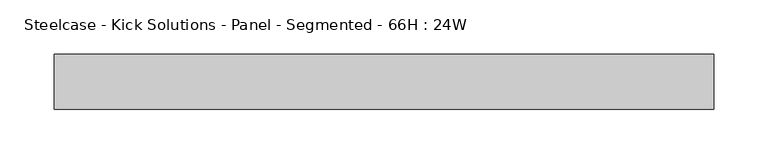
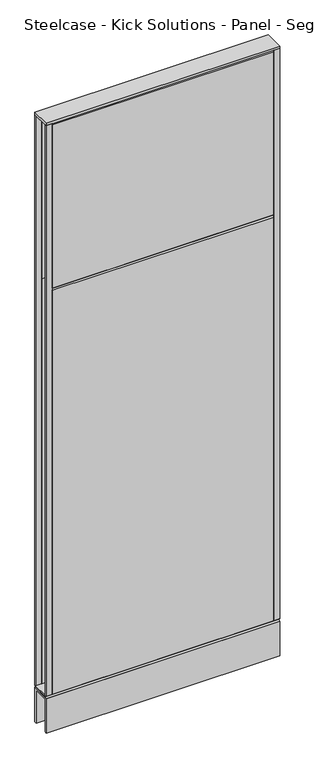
"""IFC4 building model written with IfcOpenShell, lengths in millimetres: furniture geometry, Steelcase - Kick Solutions - Panel - Segmented - 66H : 24W."""

from ifc_helpers import new_model, si_unit, frame, origin, place, context, project, spatial, polyline, outline, extrude, source, transform, mapped, element, save


def steelcase_kick_solutions_panel_segmented_66h_24w_a491ee34(model_context):
    return source(origin(), model_context, "Body", "SweptSolid", [
        extrude(outline(polyline([(1.5e-06, 1222.2811552), (-3.175, 1219.2), (-3.175, 1676.4), (1.5e-06, 1673.3188448), (1.5e-06, 1222.2811552)])), frame((15.8749996, 0.0, 0.0), z_axis=(1.0, 0.0, 0.0), x_axis=(0.0, 1.0, 0.0)), (0.0, 0.0, 1.0), 577.8500008),
        extrude(outline(polyline([(1.5e-06, 101.600003), (-3.175, 101.600003), (-3.175, 1219.2), (1.5e-06, 1216.1188448), (1.5e-06, 101.600003)])), frame((15.8749996, 0.0, 0.0), z_axis=(1.0, 0.0, 0.0), x_axis=(0.0, 1.0, 0.0)), (0.0, 0.0, 1.0), 577.8500008),
        extrude(outline(polyline([(-50.8000015, 1222.2811552), (-50.8000015, 1673.3188448), (-47.625, 1676.4), (-47.625, 1219.2), (-50.8000015, 1222.2811552)])), frame((15.8749996, 0.0, 0.0), z_axis=(1.0, 0.0, 0.0), x_axis=(0.0, 1.0, 0.0)), (0.0, 0.0, 1.0), 577.8500008),
        extrude(outline(polyline([(-50.8000015, 101.600003), (-50.8000015, 1216.1188448), (-47.625, 1219.2), (-47.625, 101.600003), (-50.8000015, 101.600003)])), frame((15.8749996, 0.0, 0.0), z_axis=(1.0, 0.0, 0.0), x_axis=(0.0, 1.0, 0.0)), (0.0, 0.0, 1.0), 577.8500008),
        extrude(outline(polyline([(609.6, -3.1750015), (593.7250004, -3.1750015), (593.7250004, 0.0), (609.6, 0.0), (609.6, -3.1750015)])), frame((0.0, 0.0, 101.7169049), z_axis=(0.0, 0.0, 1.0), x_axis=(1.0, 0.0, 0.0)), (0.0, 0.0, 1.0), 1574.799997),
        extrude(outline(polyline([(15.8749996, -50.8000015), (0.0, -50.8000015), (0.0, -47.625), (15.8749996, -47.625), (15.8749996, -50.8000015)])), frame((0.0, 0.0, 101.7169049), z_axis=(0.0, 0.0, 1.0), x_axis=(1.0, 0.0, 0.0)), (0.0, 0.0, 1.0), 1574.799997),
        extrude(outline(polyline([(-50.7995075, 101.7169049), (-0.000494, 101.7169049), (-3.0583512, 98.5421458), (-47.7416503, 98.5421458), (-50.7995075, 101.7169049)])), frame((0.0, 0.0, 0.0), z_axis=(1.0, 0.0, 0.0), x_axis=(0.0, 1.0, 0.0)), (0.0, 0.0, 1.0), 609.6),
        extrude(outline(polyline([(609.6, 0.0), (609.6, -50.8000015), (0.0, -50.8000015), (0.0, 0.0), (609.6, 0.0)])), frame((0.0, 0.0, 1676.5169018), z_axis=(0.0, 0.0, 1.0), x_axis=(1.0, 0.0, 0.0)), (0.0, 0.0, 1.0), 6.35),
        extrude(outline(polyline([(15.8749996, -3.1750015), (0.0, -3.1750015), (0.0, 0.0), (15.8749996, 0.0), (15.8749996, -3.1750015)])), frame((0.0, 0.0, 101.7169049), z_axis=(0.0, 0.0, 1.0), x_axis=(1.0, 0.0, 0.0)), (0.0, 0.0, 1.0), 1574.799997),
        extrude(outline(polyline([(609.6, -50.8000015), (593.7250004, -50.8000015), (593.7250004, -47.625), (609.6, -47.625), (609.6, -50.8000015)])), frame((0.0, 0.0, 101.7169049), z_axis=(0.0, 0.0, 1.0), x_axis=(1.0, 0.0, 0.0)), (0.0, 0.0, 1.0), 1574.799997),
        extrude(outline(polyline([(-50.8000015, 95.3668927), (-47.6247484, 98.5421458), (-3.1752531, 98.5421458), (0.0, 95.3668927), (-50.8000015, 95.3668927)])), frame((0.0, 0.0, 0.0), z_axis=(1.0, 0.0, 0.0), x_axis=(0.0, 1.0, 0.0)), (0.0, 0.0, 1.0), 609.6),
        extrude(outline(polyline([(0.0, 0.0), (-5.08, 0.0), (-5.08, 90.2869018), (-45.7200015, 90.2869018), (-45.7200015, 0.0), (-50.8000015, 0.0), (-50.8000015, 95.3669018), (0.0, 95.3669018), (0.0, 0.0)])), frame((0.0, 0.0, 0.0), z_axis=(1.0, 0.0, 0.0), x_axis=(0.0, 1.0, 0.0)), (0.0, 0.0, 1.0), 609.6),
    ])


if __name__ == "__main__":
    model = new_model("IFC4")
    model_context = context("Model", 3, world=origin())
    ifc_project = project(units=[si_unit("LENGTHUNIT", "METRE", prefix="MILLI")], contexts=[model_context])
    site = spatial("IfcSite", under=ifc_project)
    building = spatial("IfcBuilding", under=site)
    placement = place(None, origin())
    steelcase_kick_solutions_panel_segmented_66h_24w_shape = steelcase_kick_solutions_panel_segmented_66h_24w_a491ee34(model_context)
    element("IfcFurniture", 1, ObjectType="Steelcase - Kick Solutions - Panel - Segmented - 66H : 24W", at=placement, inside=building, context=model_context, shape_type="MappedRepresentation", body=[
        mapped(steelcase_kick_solutions_panel_segmented_66h_24w_shape, transform((0.0, 0.0, 0.0), x_axis=(1.0, 0.0, 0.0), y_axis=(0.0, 1.0, 0.0), z_axis=(0.0, 0.0, 1.0))),
    ])
    save(model, "model.ifc")
